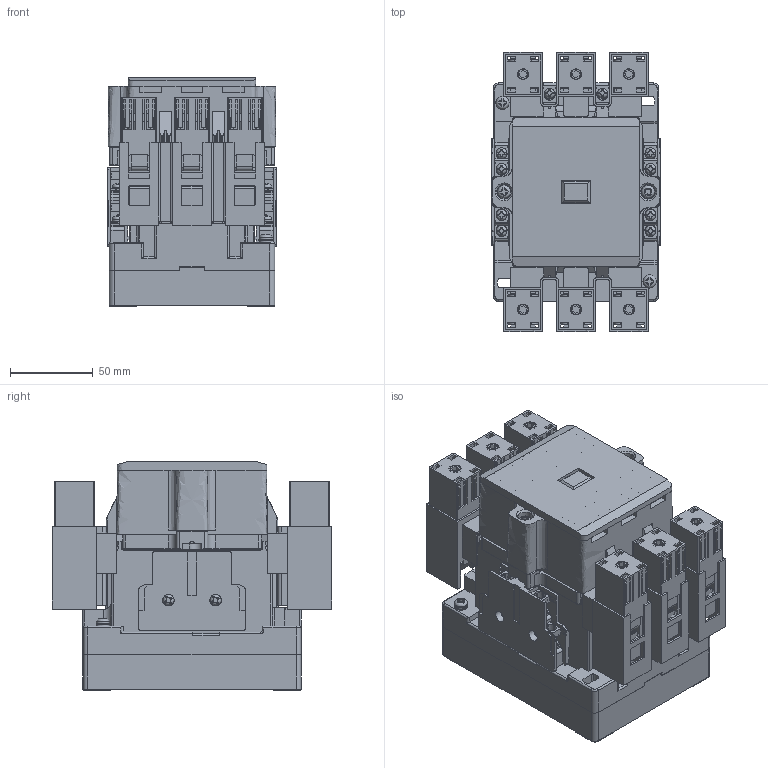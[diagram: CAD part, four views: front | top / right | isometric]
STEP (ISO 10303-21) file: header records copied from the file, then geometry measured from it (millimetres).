
FILE_DESCRIPTION (( 'STEP AP214' ), '1' );
FILE_NAME ('SC-E6.STEP', '2016-03-08T07:05:48', ( '川崎工場' ), ( '富士電機株式会社' ), 'SwSTEP 2.0', 'SolidWorks 2015', '' );
FILE_SCHEMA (( 'AUTOMOTIVE_DESIGN' ));
Length unit declared in the file: millimetre
Products named in the file (30): SC-N-Copper band2; SC-N-Copper band1; SC-N-Auxiliary terminal unit_case; Springwasher_M3P5; Screw_M3.5_L10; SC-N-Teminal cover; Plate_M3P5_7P7; SC-E6_connecting terminal coil; SC-E6_Terminal plate right; SC-E6_Finger protection part2; SC-E6_Terminal plate left; SC-E6_Finger protection part1; SC-E6_Terminal plate center; Box terminal^SC-E6; Screw_M4^SC-E6; SC-E6_Box terminal structure part2; Washer_M4; SC-E6_Box terminal structure part1; Springwasher_M4; hexagon socket set screw M8L35; Screw_M4_L30; SC-E6_Upper Case; SC-E6_Switch; SC-E6_Lower Case; SC-E-Auxiliary terminal unit with terminal cover; SC-E6_Lower Case base; Washer_M3P5; Screw_M3.5_L14; SC-E6; ScrewM3P5L10_Set
Assembly tree (70 placements, depth 4):
  SC-E6
    SC-E6_Lower Case base
    SC-E6_Lower Case
    SC-E6_Upper Case
    Box terminal^SC-E6  x8
      hexagon socket set screw M8L35
      SC-E6_Box terminal structure part1
      SC-E6_Box terminal structure part2
    SC-E6_Finger protection part1  x2
    SC-E6_Finger protection part2  x8
    SC-E6_connecting terminal coil  x2
    Plate_M3P5_7P7  x2
    SC-N-Teminal cover  x2
    Screw_M3.5_L10  x2
    Springwasher_M3P5  x2
    SC-E-Auxiliary terminal unit with terminal cover  x2
      SC-N-Auxiliary terminal unit_case
      SC-N-Copper band1
      SC-N-Copper band2
      ScrewM3P5L10_Set
        Plate_M3P5_7P7
        Springwasher_M3P5
        Screw_M3.5_L10
      Screw_M3.5_L14
      Springwasher_M3P5
      Washer_M3P5
      SC-N-Teminal cover
    SC-E6_Switch
    Screw_M4^SC-E6  x2
      Screw_M4_L30
      Springwasher_M4
      Washer_M4
    SC-E6_Terminal plate center  x2
    SC-E6_Terminal plate left  x2
    SC-E6_Terminal plate right  x2
    Screw_M4_L30  x2
Bounding box: 102 x 169 x 138 mm (x, y, z)
Volume: 1230570.7 mm3; surface area: 435467.8 mm2
Topology: 113 solids, 113 shells, 5521 faces, 15842 edges, 10412 vertices
Faces by surface type: plane 4497, cylinder 876, cone 56, bspline 48, torus 41, sphere 3
Full cylindrical faces by diameter (mm): 3 x8, 3.3 x4, 3.5 x38, 3.8 x14, 4 x6, 4.3 x2, 6.5 x8, 6.6 x8, 7 x8, 8 x10, 8.8 x2
Entity records: 65717 total; most frequent: CARTESIAN_POINT 13656, ORIENTED_EDGE 10918, DIRECTION 9980, EDGE_CURVE 5459, VECTOR 4412, LINE 4412, VERTEX_POINT 3614, AXIS2_PLACEMENT_3D 2784
